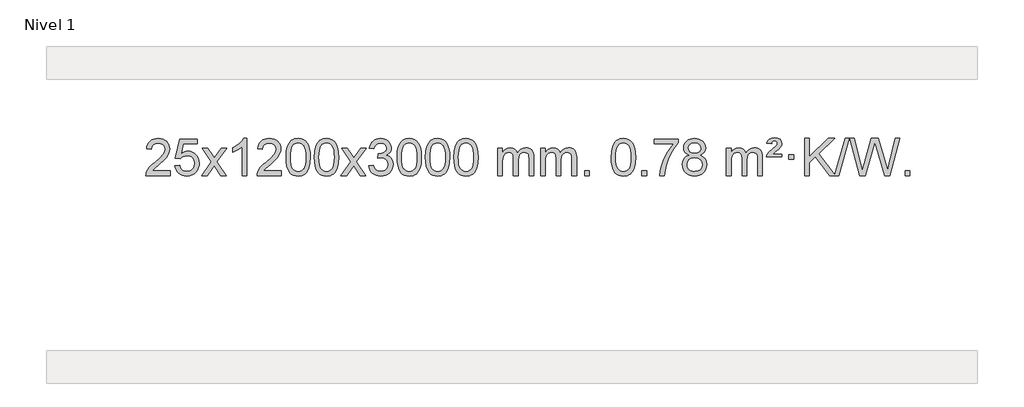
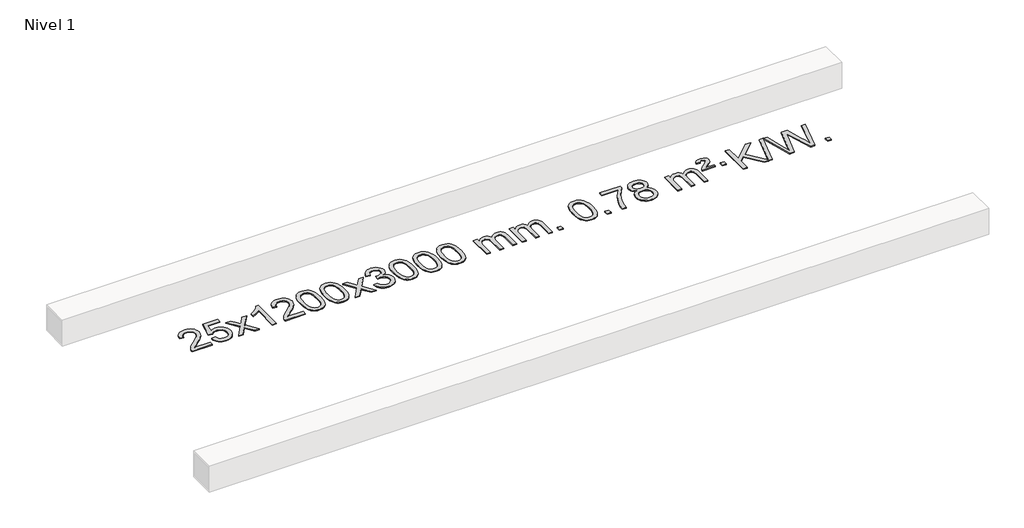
# One storey, part 7 of 7: 1 proxy.
"""IFC4 building model written with IfcOpenShell, lengths in millimetres."""

import ifcopenshell
import ifcopenshell.guid

model = None  # the IFC model being written
_history = None  # IfcOwnerHistory: only IFC2X3 demands one
_inside = {}  # id of a spatial element -> (the spatial element, [elements in it])
_under = {}  # id of a project, library or spatial element -> (it, [spatial elements below it])
_declared = {}  # id of a project -> (the project, [libraries it declares])
_typed = {}  # id of a type object -> (the type object, [elements of that type])
_made_of = {}  # id of a material, layer set ... -> (it, [elements and type objects made of it])


def new_model(schema):
    """Start an empty IFC model of exactly this schema.

    Asked for "IFC4X3", IfcOpenShell would pick the latest addendum, in which some entities
    have other attributes; the version numbers below select the first issue.
    IFC2X3 requires an IfcOwnerHistory on every rooted entity: one is made here for all.
    """
    global model, _history
    if schema == "IFC4X3":
        model = ifcopenshell.file(schema_version=(4, 3, 0, 0))
    else:
        model = ifcopenshell.file(schema=schema)
    _inside.clear()
    _under.clear()
    _declared.clear()
    _typed.clear()
    _made_of.clear()
    _history = None
    if model.schema == "IFC2X3":
        org = make("IfcOrganization", Name="unknown")
        user = make(
            "IfcPersonAndOrganization",
            ThePerson=make("IfcPerson", FamilyName="unknown"),
            TheOrganization=org,
        )
        app = make(
            "IfcApplication",
            ApplicationDeveloper=org,
            Version="unknown",
            ApplicationFullName="unknown",
            ApplicationIdentifier="unknown",
        )
        _history = make(
            "IfcOwnerHistory",
            OwningUser=user,
            OwningApplication=app,
            ChangeAction="ADDED",
            CreationDate=0,
        )
    return model


def make(cls, **values):
    """One entity of the class cls with the attributes given. An attribute that is None is left unset."""
    return model.create_entity(
        cls, **{name: value for name, value in values.items() if value is not None}
    )


def rooted(cls, **values):
    """An entity with a GlobalId (a new one), such as an element, a storey or a relation."""
    return make(cls, GlobalId=ifcopenshell.guid.new(), OwnerHistory=_history, **values)


def si_unit(unit_type, name, prefix=None):
    """IfcSIUnit, for example si_unit("LENGTHUNIT", "METRE", prefix="MILLI")."""
    return make("IfcSIUnit", UnitType=unit_type, Prefix=prefix, Name=name)


def assignment(units):
    """IfcUnitAssignment: the units of a project."""
    return None if units is None else make("IfcUnitAssignment", Units=units)


def point(xyz):
    """IfcCartesianPoint."""
    return None if xyz is None else make("IfcCartesianPoint", Coordinates=xyz)


def direction(xyz):
    """IfcDirection."""
    return None if xyz is None else make("IfcDirection", DirectionRatios=xyz)


def frame(location, z_axis=None, x_axis=None):
    """IfcAxis2Placement3D, a coordinate frame: its origin and axes. An axis left out is left unset."""
    return make(
        "IfcAxis2Placement3D",
        Location=point(location),
        Axis=direction(z_axis),
        RefDirection=direction(x_axis),
    )


def origin():
    """The frame at (0, 0, 0) with its axes left unset."""
    return frame((0.0, 0.0, 0.0))


def origin_with_axes():
    """The frame at (0, 0, 0) with the z axis (0, 0, 1) and the x axis (1, 0, 0) written out."""
    return frame((0.0, 0.0, 0.0), z_axis=(0.0, 0.0, 1.0), x_axis=(1.0, 0.0, 0.0))


def place(relative_to, where):
    """IfcLocalPlacement: puts the frame where relative to a parent placement (None: the world)."""
    return make(
        "IfcLocalPlacement", PlacementRelTo=relative_to, RelativePlacement=where
    )


def context(
    kind, dimensions, precision=None, world=None, true_north=None, identifier=None
):
    """IfcGeometricRepresentationContext, for example the 3D "Model" context."""
    return make(
        "IfcGeometricRepresentationContext",
        ContextIdentifier=identifier,
        ContextType=kind,
        CoordinateSpaceDimension=dimensions,
        Precision=precision,
        WorldCoordinateSystem=world,
        TrueNorth=true_north,
    )


def project(units=None, contexts=None):
    """IfcProject with its units and contexts."""
    return rooted(
        "IfcProject",
        Name="project",
        RepresentationContexts=contexts,
        UnitsInContext=assignment(units),
    )


def spatial(cls, under=None, at=None, **own):
    """A site, building, storey or space (cls), placed at a placement, below another one or the project."""
    s = rooted(cls, ObjectPlacement=at, **own)
    if under is not None:
        _under.setdefault(under.id(), (under, []))[1].append(s)
    return s


def polyline(points):
    """IfcPolyline through the points."""
    return make("IfcPolyline", Points=[point(p) for p in points])


def outline(outer, holes=None, kind="AREA"):
    """IfcArbitraryClosedProfileDef: a profile drawn as a closed curve; with holes, ...WithVoids."""
    if holes is None:
        return make("IfcArbitraryClosedProfileDef", ProfileType=kind, OuterCurve=outer)
    return make(
        "IfcArbitraryProfileDefWithVoids",
        ProfileType=kind,
        OuterCurve=outer,
        InnerCurves=holes,
    )


def extrude(swept, where, along, depth):
    """IfcExtrudedAreaSolid: the profile swept, set in the frame where, extruded along a direction by depth."""
    return make(
        "IfcExtrudedAreaSolid",
        SweptArea=swept,
        Position=where,
        ExtrudedDirection=direction(along),
        Depth=depth,
    )


def shape(context_of_items, identifier, shape_type, items):
    """IfcShapeRepresentation: the items that make up one representation, for example the "Body"."""
    return make(
        "IfcShapeRepresentation",
        ContextOfItems=context_of_items,
        RepresentationIdentifier=identifier,
        RepresentationType=shape_type,
        Items=items,
    )


def made_of(thing, what):
    """Note that an element or type object is made of a material, layer set ...; save() writes the relation."""
    if what is not None:
        _made_of.setdefault(what.id(), (what, []))[1].append(thing)
    return thing


def element(
    cls,
    number,
    at=None,
    inside=None,
    cuts=None,
    type_object=None,
    material=None,
    context=None,
    identifier="Body",
    shape_type=None,
    held_by="IfcProductDefinitionShape",
    body=None,
    shapes=None,
    **own,
):
    """One element of the class cls, such as IfcWall. Its Tag is "e" and its number.

    at: its placement. inside: the storey or other place that contains it. cuts: it is an
    opening in that element (IfcRelVoidsElement). A single representation is given by context,
    identifier, shape_type and body (its items); several are given by shapes. held_by: the class
    of the entity that holds the representations. save() writes the other relations.
    """
    e = rooted(cls, Tag="e%d" % number, ObjectPlacement=at, **own)
    if body is not None:
        shapes = [shape(context, identifier, shape_type, body)]
    if shapes is not None:
        e.Representation = make(held_by, Representations=shapes)
    if inside is not None:
        _inside.setdefault(inside.id(), (inside, []))[1].append(e)
    if cuts is not None:
        rooted(
            "IfcRelVoidsElement", RelatingBuildingElement=cuts, RelatedOpeningElement=e
        )
    if type_object is not None:
        _typed.setdefault(type_object.id(), (type_object, []))[1].append(e)
    return made_of(e, material)


def aggregate(whole, parts):
    """IfcRelAggregates: a whole, such as a stair, and the parts it consists of."""
    return rooted("IfcRelAggregates", RelatingObject=whole, RelatedObjects=parts)


def save(model, path):
    """Write the relations noted so far, then the file.

    IfcRelAggregates (storeys below a building ...), IfcRelContainedInSpatialStructure (elements
    in a storey), IfcRelDefinesByType, IfcRelAssociatesMaterial and IfcRelDeclares: one each for
    every whole, place, type object, material and project.
    """
    for whole, parts in _under.values():
        aggregate(whole, parts)
    for where, things in _inside.values():
        rooted(
            "IfcRelContainedInSpatialStructure",
            RelatedElements=things,
            RelatingStructure=where,
        )
    for kind, things in _typed.values():
        rooted("IfcRelDefinesByType", RelatedObjects=things, RelatingType=kind)
    for what, things in _made_of.values():
        rooted("IfcRelAssociatesMaterial", RelatedObjects=things, RelatingMaterial=what)
    for by, libraries in _declared.values():
        rooted("IfcRelDeclares", RelatingContext=by, RelatedDefinitions=libraries)
    model.write(path)


model = new_model("IFC4")

# Units and contexts
model_context = context("Model", 3, world=origin())
ifc_project = project(units=[si_unit("LENGTHUNIT", "METRE", prefix="MILLI")], contexts=[model_context])

# Site, building, storey
site = spatial("IfcSite", under=ifc_project)
building = spatial("IfcBuilding", under=site)
storey = spatial("IfcBuildingStorey", under=building, Name="Nivel 1", Elevation=0.0)

# Proxy
placement = place(None, origin())
element("IfcBuildingElementProxy", 1, Name="Texto de modelo 1", ObjectType="Texto de modelo 1", at=placement, inside=storey, context=model_context, shape_type="SweptSolid", body=[
    extrude(outline(polyline([(-23553.723944, 2333.9033514), (-23553.723944, 2283.6751963), (-23817.4217581, 2283.6751963), (-23816.3181122, 2301.3580575), (-23812.0261556, 2318.3051548), (-23799.640795, 2345.3690069), (-23781.5164754, 2371.6235186), (-23755.2987519, 2399.1043037), (-23718.6331797, 2429.8469757), (-23664.4318991, 2477.9904662), (-23631.9111307, 2513.5278669), (-23615.6507465, 2542.3698153), (-23610.2306185, 2570.4269488), (-23615.3441782, 2595.5778145), (-23630.6848574, 2616.4857746), (-23654.2660933, 2630.575655), (-23684.1013231, 2635.2722818), (-23715.4326064, 2630.6860196), (-23739.7741317, 2616.927233), (-23755.4826929, 2595.0750425), (-23760.9150837, 2566.2085686), (-23811.1432388, 2572.487088), (-23806.823691, 2598.4166373), (-23798.9663447, 2621.0720368), (-23787.5711999, 2640.4532866), (-23772.6382566, 2656.5603866), (-23754.5108713, 2669.2216586), (-23733.5324005, 2678.2654243), (-23709.7028443, 2683.6916838), (-23683.0222026, 2685.5004369), (-23656.1024376, 2683.4893487), (-23632.1441226, 2677.4560839), (-23611.1472578, 2667.4006427), (-23593.111843, 2653.3230251), (-23578.6264894, 2636.2655632), (-23568.2798083, 2617.2705895), (-23562.0717996, 2596.338104), (-23560.0024634, 2573.4681066), (-23562.2342808, 2549.4454124), (-23568.9297331, 2525.839651), (-23580.8123216, 2501.8292194), (-23598.6055474, 2476.5925146), (-23626.9692492, 2446.4629792), (-23670.5632657, 2407.774056), (-23728.3452644, 2359.4588873), (-23751.0067953, 2333.9033514), (-23553.723944, 2333.9033514)])), origin_with_axes(), (0.0, 0.0, 1.0), 10.0),
    extrude(outline(polyline([(-23503.4957889, 2390.4100258), (-23453.2676339, 2396.6885452), (-23444.0460585, 2366.5344844), (-23427.9573526, 2344.9398112), (-23405.0750925, 2331.9535768), (-23375.4728546, 2327.624832), (-23356.3429909, 2329.1300825), (-23339.46947, 2333.645834), (-23324.8522921, 2341.1720865), (-23312.491457, 2351.7088399), (-23302.6628764, 2364.7349283), (-23295.6424617, 2379.7291852), (-23290.0261299, 2415.6222052), (-23295.2868424, 2449.4182979), (-23301.8627331, 2463.3365), (-23311.06898, 2475.2681394), (-23322.93624, 2484.8392026), (-23337.49517, 2491.6756764), (-23374.6880397, 2497.1448554), (-23399.0540905, 2494.9620889), (-23418.7848282, 2488.4137894), (-23434.5424403, 2478.3828736), (-23446.9891145, 2465.7522585), (-23497.2172695, 2472.0307778), (-23453.2676339, 2679.2219175), (-23258.6335329, 2679.2219175), (-23258.6335329, 2628.9937624), (-23412.6534616, 2628.9937624), (-23434.1377701, 2518.3348583), (-23416.4119893, 2531.0390499), (-23398.2570128, 2540.1134724), (-23379.6728407, 2545.5581259), (-23360.6594729, 2547.3730104), (-23336.1983859, 2545.1227989), (-23313.7299931, 2538.3721643), (-23293.2542944, 2527.1211066), (-23274.7712898, 2511.3696259), (-23259.4704645, 2492.0803466), (-23248.5413035, 2470.2158933), (-23241.983807, 2445.7762661), (-23239.7979748, 2418.7614649), (-23241.7661435, 2392.7399451), (-23247.6706495, 2368.5333099), (-23257.5114929, 2346.1415591), (-23271.2886736, 2325.5646928), (-23292.1598454, 2304.4911859), (-23316.5136335, 2289.4386809), (-23344.3500378, 2280.4071779), (-23375.6690583, 2277.3966769), (-23401.5894106, 2279.3311231), (-23425.0020339, 2285.1344616), (-23445.9069283, 2294.8066923), (-23464.3040937, 2308.3478154), (-23479.6110504, 2325.0833805), (-23491.2453185, 2344.3389373), (-23499.206898, 2366.1144857), (-23503.4957889, 2390.4100258)])), origin_with_axes(), (0.0, 0.0, 1.0), 10.0),
    extrude(outline(polyline([(-23214.6838972, 2283.6751963), (-23107.3604565, 2432.0052168), (-23208.4053779, 2578.7656074), (-23147.9746288, 2578.7656074), (-23099.2180017, 2508.1322643), (-23076.4583689, 2474.7776301), (-23056.739894, 2502.0499486), (-23001.2142382, 2578.7656074), (-22940.7834891, 2578.7656074), (-23046.9297074, 2432.0052168), (-22944.7075637, 2283.6751963), (-23005.1383128, 2283.6751963), (-23066.6481824, 2372.8497919), (-23077.9298969, 2389.1347016), (-23154.2531482, 2283.6751963), (-23214.6838972, 2283.6751963)])), origin_with_axes(), (0.0, 0.0, 1.0), 10.0),
    extrude(outline(polyline([(-22724.9593853, 2283.6751963), (-22775.1875403, 2283.6751963), (-22775.1875403, 2596.8163506), (-22796.1568141, 2579.8569906), (-22822.7669451, 2562.9221561), (-22875.6438505, 2537.5628239), (-22875.6438505, 2585.0441268), (-22836.1946379, 2606.5039098), (-22802.0184005, 2632.0349203), (-22775.0771757, 2659.1846115), (-22757.3330008, 2685.5004369), (-22724.9593853, 2685.5004369), (-22724.9593853, 2283.6751963)])), origin_with_axes(), (0.0, 0.0, 1.0), 10.0),
    extrude(outline(polyline([(-22348.2482222, 2333.9033514), (-22348.2482222, 2283.6751963), (-22611.9460364, 2283.6751963), (-22610.8423904, 2301.3580575), (-22606.5504338, 2318.3051548), (-22594.1650733, 2345.3690069), (-22576.0407536, 2371.6235186), (-22549.8230301, 2399.1043037), (-22513.1574579, 2429.8469757), (-22458.9561773, 2477.9904662), (-22426.4354089, 2513.5278669), (-22410.1750247, 2542.3698153), (-22404.7548967, 2570.4269488), (-22409.8684564, 2595.5778145), (-22425.2091356, 2616.4857746), (-22448.7903715, 2630.575655), (-22478.6256013, 2635.2722818), (-22509.9568846, 2630.6860196), (-22534.2984099, 2616.927233), (-22550.0069711, 2595.0750425), (-22555.4393619, 2566.2085686), (-22605.667517, 2572.487088), (-22601.3479692, 2598.4166373), (-22593.4906229, 2621.0720368), (-22582.0954781, 2640.4532866), (-22567.1625348, 2656.5603866), (-22549.0351495, 2669.2216586), (-22528.0566787, 2678.2654243), (-22504.2271225, 2683.6916838), (-22477.5464808, 2685.5004369), (-22450.6267158, 2683.4893487), (-22426.6684008, 2677.4560839), (-22405.671536, 2667.4006427), (-22387.6361212, 2653.3230251), (-22373.1507676, 2636.2655632), (-22362.8040865, 2617.2705895), (-22356.5960778, 2596.338104), (-22354.5267416, 2573.4681066), (-22356.758559, 2549.4454124), (-22363.4540113, 2525.839651), (-22375.3365998, 2501.8292194), (-22393.1298256, 2476.5925146), (-22421.4935274, 2446.4629792), (-22465.0875439, 2407.774056), (-22522.8695426, 2359.4588873), (-22545.5310735, 2333.9033514), (-22348.2482222, 2333.9033514)])), origin_with_axes(), (0.0, 0.0, 1.0), 10.0),
    extrude(outline(polyline([(-22298.0200671, 2481.350455), (-22294.3289844, 2545.6684905), (-22283.2557364, 2596.9635034), (-22264.9106876, 2636.0203086), (-22253.0526246, 2651.2536888), (-22239.4042026, 2663.6237209), (-22223.9194363, 2673.1947842), (-22206.5523404, 2680.0312579), (-22166.1711601, 2685.5004369), (-22135.2200215, 2682.2630753), (-22107.5062446, 2672.5509907), (-22084.3296789, 2656.7443276), (-22066.9901742, 2635.2232309), (-22053.8935751, 2608.1716415), (-22043.4457265, 2575.7735005), (-22036.6031214, 2534.6320307), (-22034.322253, 2481.350455), (-22037.9765475, 2417.4003016), (-22048.9394309, 2366.227916), (-22067.1741152, 2327.1343227), (-22079.004587, 2311.8549571), (-22092.643812, 2299.4205457), (-22108.1469724, 2289.7851031), (-22125.5692505, 2282.9026441), (-22166.1711601, 2277.3966769), (-22193.8358861, 2279.7879099), (-22218.3613524, 2286.9616088), (-22239.7475591, 2298.9177736), (-22257.9945061, 2315.6564044), (-22275.505689, 2345.9146985), (-22288.0136769, 2383.6164717), (-22295.5184696, 2428.7617238), (-22298.0200671, 2481.350455)]), holes=[polyline([(-22247.7919121, 2481.4485569), (-22246.3203841, 2437.7840298), (-22241.9058001, 2402.4397671), (-22234.5481602, 2375.4157689), (-22224.2474644, 2356.7120351), (-22211.7885275, 2343.9863837), (-22197.9561644, 2334.8966328), (-22182.7503753, 2329.4427822), (-22166.1711601, 2327.624832), (-22149.5919448, 2329.4489136), (-22134.3861557, 2334.9211582), (-22120.5537927, 2344.041566), (-22108.0948558, 2356.8101369), (-22097.7941599, 2375.5445276), (-22090.43652, 2402.5623944), (-22086.021936, 2437.8637375), (-22084.5504081, 2481.4485569), (-22085.9728851, 2523.9573215), (-22090.2403163, 2558.6792504), (-22097.3527015, 2585.6143438), (-22107.3100408, 2604.7626017), (-22119.5605113, 2618.1105868), (-22133.5522898, 2627.6448618), (-22149.2853765, 2633.3654268), (-22166.7597713, 2635.2722818), (-22183.2531474, 2633.5922874), (-22198.2014191, 2628.5523041), (-22211.6045865, 2620.1523318), (-22223.4626494, 2608.3923707), (-22234.1067018, 2587.5457243), (-22241.7095964, 2559.4395399), (-22246.2713331, 2524.0738174), (-22247.7919121, 2481.4485569)])]), origin_with_axes(), (0.0, 0.0, 1.0), 10.0),
    extrude(outline(polyline([(-21990.3726173, 2481.350455), (-21986.6815346, 2545.6684905), (-21975.6082866, 2596.9635034), (-21957.2632377, 2636.0203086), (-21945.4051748, 2651.2536888), (-21931.7567527, 2663.6237209), (-21916.2719864, 2673.1947842), (-21898.9048906, 2680.0312579), (-21858.5237102, 2685.5004369), (-21827.5725717, 2682.2630753), (-21799.8587947, 2672.5509907), (-21776.682229, 2656.7443276), (-21759.3427243, 2635.2232309), (-21746.2461253, 2608.1716415), (-21735.7982766, 2575.7735005), (-21728.9556715, 2534.6320307), (-21726.6748032, 2481.350455), (-21730.3290976, 2417.4003016), (-21741.2919811, 2366.227916), (-21759.5266653, 2327.1343227), (-21771.3571372, 2311.8549571), (-21784.9963621, 2299.4205457), (-21800.4995225, 2289.7851031), (-21817.9218007, 2282.9026441), (-21858.5237102, 2277.3966769), (-21886.1884363, 2279.7879099), (-21910.7139026, 2286.9616088), (-21932.1001093, 2298.9177736), (-21950.3470562, 2315.6564044), (-21967.8582392, 2345.9146985), (-21980.366227, 2383.6164717), (-21987.8710197, 2428.7617238), (-21990.3726173, 2481.350455)]), holes=[polyline([(-21940.1444622, 2481.4485569), (-21938.6729342, 2437.7840298), (-21934.2583503, 2402.4397671), (-21926.9007104, 2375.4157689), (-21916.6000145, 2356.7120351), (-21904.1410776, 2343.9863837), (-21890.3087146, 2334.8966328), (-21875.1029255, 2329.4427822), (-21858.5237102, 2327.624832), (-21841.944495, 2329.4489136), (-21826.7387058, 2334.9211582), (-21812.9063428, 2344.041566), (-21800.4474059, 2356.8101369), (-21790.1467101, 2375.5445276), (-21782.7890702, 2402.5623944), (-21778.3744862, 2437.8637375), (-21776.9029582, 2481.4485569), (-21778.3254353, 2523.9573215), (-21782.5928664, 2558.6792504), (-21789.7052517, 2585.6143438), (-21799.662591, 2604.7626017), (-21811.9130614, 2618.1105868), (-21825.90484, 2627.6448618), (-21841.6379267, 2633.3654268), (-21859.1123214, 2635.2722818), (-21875.6056975, 2633.5922874), (-21890.5539693, 2628.5523041), (-21903.9571366, 2620.1523318), (-21915.8151996, 2608.3923707), (-21926.459252, 2587.5457243), (-21934.0621466, 2559.4395399), (-21938.6238833, 2524.0738174), (-21940.1444622, 2481.4485569)])]), origin_with_axes(), (0.0, 0.0, 1.0), 10.0),
    extrude(outline(polyline([(-21701.5607256, 2283.6751963), (-21594.2372849, 2432.0052168), (-21695.2822062, 2578.7656074), (-21634.8514572, 2578.7656074), (-21586.0948301, 2508.1322643), (-21563.3351973, 2474.7776301), (-21543.6167224, 2502.0499486), (-21488.0910666, 2578.7656074), (-21427.6603175, 2578.7656074), (-21533.8065358, 2432.0052168), (-21431.5843921, 2283.6751963), (-21492.0151412, 2283.6751963), (-21553.5250108, 2372.8497919), (-21564.8067253, 2389.1347016), (-21641.1299765, 2283.6751963), (-21701.5607256, 2283.6751963)])), origin_with_axes(), (0.0, 0.0, 1.0), 10.0),
    extrude(outline(polyline([(-21400.1917952, 2390.4100258), (-21349.9636401, 2396.6885452), (-21338.7187138, 2365.12427), (-21322.2498631, 2343.8116398), (-21299.7477478, 2331.6715339), (-21270.4030273, 2327.624832), (-21235.9692725, 2333.1921129), (-21221.6954511, 2340.1512139), (-21209.383667, 2349.8939554), (-21192.3875188, 2374.8118292), (-21186.7221361, 2405.0272038), (-21192.3384679, 2433.7097367), (-21209.1874633, 2456.9721415), (-21234.6939483, 2472.3863971), (-21266.2827489, 2477.5244823), (-21301.5013186, 2472.0307778), (-21295.9095123, 2522.2589329), (-21287.8651593, 2521.6703217), (-21257.7724121, 2525.2755653), (-21230.8679755, 2536.0912959), (-21219.7947275, 2544.270539), (-21211.8852646, 2554.3872938), (-21207.1395868, 2566.4415605), (-21205.5576943, 2580.4333391), (-21210.1439565, 2602.1261141), (-21223.9027431, 2619.7231362), (-21244.8965423, 2631.3849954), (-21271.1878422, 2635.2722818), (-21297.5281931, 2631.3482072), (-21319.0615525, 2619.5759834), (-21334.7823764, 2599.9556103), (-21343.6851207, 2572.487088), (-21393.9132758, 2578.7656074), (-21387.9597188, 2602.7453821), (-21379.1244196, 2623.86794), (-21367.407378, 2642.133281), (-21352.8085942, 2657.5414053), (-21335.7879205, 2669.7734816), (-21316.8052096, 2678.510679), (-21295.8604613, 2683.7529974), (-21272.9536758, 2685.5004369), (-21241.3771379, 2682.0546089), (-21212.3757739, 2671.7171248), (-21187.923884, 2655.4076897), (-21169.9957681, 2634.0460085), (-21158.9960964, 2609.434703), (-21155.3295392, 2583.376395), (-21158.8121554, 2559.0961834), (-21169.2600041, 2537.0723146), (-21186.5259324, 2518.3103328), (-21210.4627875, 2503.8157822), (-21179.0211397, 2491.1115907), (-21155.7219466, 2469.4801293), (-21141.3009724, 2440.0986207), (-21136.493981, 2404.144287), (-21138.8974767, 2378.6623275), (-21146.1079638, 2355.1914562), (-21158.1254423, 2333.7316731), (-21174.9499123, 2314.2829783), (-21195.4470708, 2298.1452214), (-21218.482615, 2286.6182523), (-21244.0565451, 2279.7020708), (-21272.1688608, 2277.3966769), (-21297.577244, 2279.3648456), (-21320.7292842, 2285.2693516), (-21341.6249815, 2295.110195), (-21360.264336, 2308.8873757), (-21375.8931894, 2325.7915534), (-21387.7573837, 2345.0133876), (-21395.856919, 2366.5528785), (-21400.1917952, 2390.4100258)])), origin_with_axes(), (0.0, 0.0, 1.0), 10.0),
    extrude(outline(polyline([(-21092.5443453, 2481.350455), (-21088.8532627, 2545.6684905), (-21077.7800146, 2596.9635034), (-21059.4349658, 2636.0203086), (-21047.5769028, 2651.2536888), (-21033.9284808, 2663.6237209), (-21018.4437145, 2673.1947842), (-21001.0766186, 2680.0312579), (-20960.6954383, 2685.5004369), (-20929.7442997, 2682.2630753), (-20902.0305228, 2672.5509907), (-20878.8539571, 2656.7443276), (-20861.5144524, 2635.2232309), (-20848.4178533, 2608.1716415), (-20837.9700047, 2575.7735005), (-20831.1273996, 2534.6320307), (-20828.8465312, 2481.350455), (-20832.5008257, 2417.4003016), (-20843.4637091, 2366.227916), (-20861.6983934, 2327.1343227), (-20873.5288652, 2311.8549571), (-20887.1680902, 2299.4205457), (-20902.6712506, 2289.7851031), (-20920.0935287, 2282.9026441), (-20960.6954383, 2277.3966769), (-20988.3601643, 2279.7879099), (-21012.8856306, 2286.9616088), (-21034.2718373, 2298.9177736), (-21052.5187843, 2315.6564044), (-21070.0299672, 2345.9146985), (-21082.5379551, 2383.6164717), (-21090.0427478, 2428.7617238), (-21092.5443453, 2481.350455)]), holes=[polyline([(-21042.3161903, 2481.4485569), (-21040.8446623, 2437.7840298), (-21036.4300783, 2402.4397671), (-21029.0724384, 2375.4157689), (-21018.7717426, 2356.7120351), (-21006.3128057, 2343.9863837), (-20992.4804427, 2334.8966328), (-20977.2746535, 2329.4427822), (-20960.6954383, 2327.624832), (-20944.116223, 2329.4489136), (-20928.9104339, 2334.9211582), (-20915.0780709, 2344.041566), (-20902.619134, 2356.8101369), (-20892.3184381, 2375.5445276), (-20884.9607982, 2402.5623944), (-20880.5462143, 2437.8637375), (-20879.0746863, 2481.4485569), (-20880.4971633, 2523.9573215), (-20884.7645945, 2558.6792504), (-20891.8769797, 2585.6143438), (-20901.834319, 2604.7626017), (-20914.0847895, 2618.1105868), (-20928.076568, 2627.6448618), (-20943.8096547, 2633.3654268), (-20961.2840495, 2635.2722818), (-20977.7774256, 2633.5922874), (-20992.7256973, 2628.5523041), (-21006.1288647, 2620.1523318), (-21017.9869276, 2608.3923707), (-21028.63098, 2587.5457243), (-21036.2338746, 2559.4395399), (-21040.7956114, 2524.0738174), (-21042.3161903, 2481.4485569)])]), origin_with_axes(), (0.0, 0.0, 1.0), 10.0),
    extrude(outline(polyline([(-20784.8968955, 2481.350455), (-20781.2058128, 2545.6684905), (-20770.1325648, 2596.9635034), (-20751.7875159, 2636.0203086), (-20739.929453, 2651.2536888), (-20726.2810309, 2663.6237209), (-20710.7962646, 2673.1947842), (-20693.4291688, 2680.0312579), (-20653.0479884, 2685.5004369), (-20622.0968499, 2682.2630753), (-20594.3830729, 2672.5509907), (-20571.2065072, 2656.7443276), (-20553.8670025, 2635.2232309), (-20540.7704035, 2608.1716415), (-20530.3225548, 2575.7735005), (-20523.4799497, 2534.6320307), (-20521.1990814, 2481.350455), (-20524.8533758, 2417.4003016), (-20535.8162593, 2366.227916), (-20554.0509435, 2327.1343227), (-20565.8814154, 2311.8549571), (-20579.5206403, 2299.4205457), (-20595.0238007, 2289.7851031), (-20612.4460789, 2282.9026441), (-20653.0479884, 2277.3966769), (-20680.7127145, 2279.7879099), (-20705.2381808, 2286.9616088), (-20726.6243875, 2298.9177736), (-20744.8713344, 2315.6564044), (-20762.3825174, 2345.9146985), (-20774.8905052, 2383.6164717), (-20782.3952979, 2428.7617238), (-20784.8968955, 2481.350455)]), holes=[polyline([(-20734.6687404, 2481.4485569), (-20733.1972124, 2437.7840298), (-20728.7826285, 2402.4397671), (-20721.4249886, 2375.4157689), (-20711.1242927, 2356.7120351), (-20698.6653558, 2343.9863837), (-20684.8329928, 2334.8966328), (-20669.6272037, 2329.4427822), (-20653.0479884, 2327.624832), (-20636.4687732, 2329.4489136), (-20621.2629841, 2334.9211582), (-20607.430621, 2344.041566), (-20594.9716841, 2356.8101369), (-20584.6709883, 2375.5445276), (-20577.3133484, 2402.5623944), (-20572.8987644, 2437.8637375), (-20571.4272364, 2481.4485569), (-20572.8497135, 2523.9573215), (-20577.1171446, 2558.6792504), (-20584.2295299, 2585.6143438), (-20594.1868692, 2604.7626017), (-20606.4373396, 2618.1105868), (-20620.4291182, 2627.6448618), (-20636.1622049, 2633.3654268), (-20653.6365996, 2635.2722818), (-20670.1299757, 2633.5922874), (-20685.0782475, 2628.5523041), (-20698.4814148, 2620.1523318), (-20710.3394778, 2608.3923707), (-20720.9835302, 2587.5457243), (-20728.5864248, 2559.4395399), (-20733.1481615, 2524.0738174), (-20734.6687404, 2481.4485569)])]), origin_with_axes(), (0.0, 0.0, 1.0), 10.0),
    extrude(outline(polyline([(-20477.2494457, 2481.350455), (-20473.558363, 2545.6684905), (-20462.4851149, 2596.9635034), (-20444.1400661, 2636.0203086), (-20432.2820031, 2651.2536888), (-20418.6335811, 2663.6237209), (-20403.1488148, 2673.1947842), (-20385.7817189, 2680.0312579), (-20345.4005386, 2685.5004369), (-20314.4494001, 2682.2630753), (-20286.7356231, 2672.5509907), (-20263.5590574, 2656.7443276), (-20246.2195527, 2635.2232309), (-20233.1229537, 2608.1716415), (-20222.675105, 2575.7735005), (-20215.8324999, 2534.6320307), (-20213.5516315, 2481.350455), (-20217.205926, 2417.4003016), (-20228.1688095, 2366.227916), (-20246.4034937, 2327.1343227), (-20258.2339655, 2311.8549571), (-20271.8731905, 2299.4205457), (-20287.3763509, 2289.7851031), (-20304.7986291, 2282.9026441), (-20345.4005386, 2277.3966769), (-20373.0652646, 2279.7879099), (-20397.590731, 2286.9616088), (-20418.9769376, 2298.9177736), (-20437.2238846, 2315.6564044), (-20454.7350676, 2345.9146985), (-20467.2430554, 2383.6164717), (-20474.7478481, 2428.7617238), (-20477.2494457, 2481.350455)]), holes=[polyline([(-20427.0212906, 2481.4485569), (-20425.5497626, 2437.7840298), (-20421.1351787, 2402.4397671), (-20413.7775388, 2375.4157689), (-20403.4768429, 2356.7120351), (-20391.017906, 2343.9863837), (-20377.185543, 2334.8966328), (-20361.9797538, 2329.4427822), (-20345.4005386, 2327.624832), (-20328.8213234, 2329.4489136), (-20313.6155342, 2334.9211582), (-20299.7831712, 2344.041566), (-20287.3242343, 2356.8101369), (-20277.0235384, 2375.5445276), (-20269.6658985, 2402.5623944), (-20265.2513146, 2437.8637375), (-20263.7797866, 2481.4485569), (-20265.2022637, 2523.9573215), (-20269.4696948, 2558.6792504), (-20276.58208, 2585.6143438), (-20286.5394194, 2604.7626017), (-20298.7898898, 2618.1105868), (-20312.7816684, 2627.6448618), (-20328.514755, 2633.3654268), (-20345.9891498, 2635.2722818), (-20362.4825259, 2633.5922874), (-20377.4307976, 2628.5523041), (-20390.833965, 2620.1523318), (-20402.692028, 2608.3923707), (-20413.3360804, 2587.5457243), (-20420.9389749, 2559.4395399), (-20425.5007117, 2524.0738174), (-20427.0212906, 2481.4485569)])]), origin_with_axes(), (0.0, 0.0, 1.0), 10.0),
    extrude(outline(polyline([(-20000.0819725, 2283.6751963), (-20000.0819725, 2578.7656074), (-19949.8538174, 2578.7656074), (-19949.8538174, 2530.205184), (-19934.7461301, 2552.5110956), (-19915.3219608, 2569.9854904), (-19892.2434969, 2581.2794677), (-19866.1729262, 2585.0441268), (-19838.23842, 2581.2058913), (-19815.8466693, 2569.6911848), (-19799.1203012, 2551.2602969), (-19788.1819432, 2526.6735169), (-19769.8736826, 2552.2106587), (-19748.990248, 2570.4514743), (-19725.5316395, 2581.3959636), (-19699.4978569, 2585.0441268), (-19679.3900402, 2583.5266135), (-19661.7409015, 2578.9740738), (-19646.5504408, 2571.3865077), (-19633.8186581, 2560.7639151), (-19623.7540198, 2546.9836687), (-19616.5649925, 2529.9231411), (-19612.2515761, 2509.5823325), (-19610.8137706, 2485.9612427), (-19610.8137706, 2283.6751963), (-19661.0419257, 2283.6751963), (-19661.0419257, 2464.3788323), (-19662.2068854, 2489.4315962), (-19665.7017643, 2506.3173798), (-19672.2500638, 2517.8811372), (-19682.5752852, 2526.9678224), (-19695.8558252, 2532.8539344), (-19711.2700808, 2534.8159717), (-19738.4810857, 2529.7882511), (-19760.66437, 2514.7050893), (-19769.269743, 2503.1352005), (-19775.416438, 2488.5364167), (-19780.333794, 2450.2521637), (-19780.333794, 2283.6751963), (-19830.5619491, 2283.6751963), (-19830.5619491, 2469.9706387), (-19833.4682168, 2498.3711287), (-19842.1870201, 2518.6291639), (-19857.5276993, 2530.7692697), (-19880.2995948, 2534.8159717), (-19899.6501878, 2532.1181704), (-19917.4802018, 2524.0247665), (-19932.1954816, 2510.7319637), (-19942.2018719, 2492.4359658), (-19947.940831, 2467.0521082), (-19949.8538174, 2432.4957261), (-19949.8538174, 2283.6751963), (-20000.0819725, 2283.6751963)])), origin_with_axes(), (0.0, 0.0, 1.0), 10.0),
    extrude(outline(polyline([(-19535.471538, 2283.6751963), (-19535.471538, 2578.7656074), (-19485.2433829, 2578.7656074), (-19485.2433829, 2530.205184), (-19470.1356957, 2552.5110956), (-19450.7115263, 2569.9854904), (-19427.6330625, 2581.2794677), (-19401.5624918, 2585.0441268), (-19373.6279856, 2581.2058913), (-19351.2362348, 2569.6911848), (-19334.5098668, 2551.2602969), (-19323.5715088, 2526.6735169), (-19305.2632482, 2552.2106587), (-19284.3798136, 2570.4514743), (-19260.921205, 2581.3959636), (-19234.8874225, 2585.0441268), (-19214.7796058, 2583.5266135), (-19197.1304671, 2578.9740738), (-19181.9400063, 2571.3865077), (-19169.2082236, 2560.7639151), (-19159.1435854, 2546.9836687), (-19151.954558, 2529.9231411), (-19147.6411417, 2509.5823325), (-19146.2033362, 2485.9612427), (-19146.2033362, 2283.6751963), (-19196.4314913, 2283.6751963), (-19196.4314913, 2464.3788323), (-19197.5964509, 2489.4315962), (-19201.0913299, 2506.3173798), (-19207.6396294, 2517.8811372), (-19217.9648507, 2526.9678224), (-19231.2453907, 2532.8539344), (-19246.6596463, 2534.8159717), (-19273.8706512, 2529.7882511), (-19296.0539356, 2514.7050893), (-19304.6593086, 2503.1352005), (-19310.8060036, 2488.5364167), (-19315.7233596, 2450.2521637), (-19315.7233596, 2283.6751963), (-19365.9515146, 2283.6751963), (-19365.9515146, 2469.9706387), (-19368.8577824, 2498.3711287), (-19377.5765857, 2518.6291639), (-19392.9172649, 2530.7692697), (-19415.6891604, 2534.8159717), (-19435.0397533, 2532.1181704), (-19452.8697674, 2524.0247665), (-19467.5850472, 2510.7319637), (-19477.5914374, 2492.4359658), (-19483.3303966, 2467.0521082), (-19485.2433829, 2432.4957261), (-19485.2433829, 2283.6751963), (-19535.471538, 2283.6751963)])), origin_with_axes(), (0.0, 0.0, 1.0), 10.0),
    extrude(outline(polyline([(-19058.3040648, 2283.6751963), (-19058.3040648, 2333.9033514), (-19008.0759097, 2333.9033514), (-19008.0759097, 2283.6751963), (-19058.3040648, 2283.6751963)])), origin_with_axes(), (0.0, 0.0, 1.0), 10.0),
    extrude(outline(polyline([(-18769.4921731, 2481.350455), (-18765.8010904, 2545.6684905), (-18754.7278424, 2596.9635034), (-18736.3827936, 2636.0203086), (-18724.5247306, 2651.2536888), (-18710.8763086, 2663.6237209), (-18695.3915423, 2673.1947842), (-18678.0244464, 2680.0312579), (-18637.6432661, 2685.5004369), (-18606.6921275, 2682.2630753), (-18578.9783506, 2672.5509907), (-18555.8017849, 2656.7443276), (-18538.4622802, 2635.2232309), (-18525.3656811, 2608.1716415), (-18514.9178325, 2575.7735005), (-18508.0752274, 2534.6320307), (-18505.794359, 2481.350455), (-18509.4486535, 2417.4003016), (-18520.4115369, 2366.227916), (-18538.6462212, 2327.1343227), (-18550.476693, 2311.8549571), (-18564.115918, 2299.4205457), (-18579.6190784, 2289.7851031), (-18597.0413565, 2282.9026441), (-18637.6432661, 2277.3966769), (-18665.3079921, 2279.7879099), (-18689.8334584, 2286.9616088), (-18711.2196651, 2298.9177736), (-18729.4666121, 2315.6564044), (-18746.977795, 2345.9146985), (-18759.4857829, 2383.6164717), (-18766.9905756, 2428.7617238), (-18769.4921731, 2481.350455)]), holes=[polyline([(-18719.2640181, 2481.4485569), (-18717.7924901, 2437.7840298), (-18713.3779061, 2402.4397671), (-18706.0202662, 2375.4157689), (-18695.7195704, 2356.7120351), (-18683.2606335, 2343.9863837), (-18669.4282704, 2334.8966328), (-18654.2224813, 2329.4427822), (-18637.6432661, 2327.624832), (-18621.0640508, 2329.4489136), (-18605.8582617, 2334.9211582), (-18592.0258987, 2344.041566), (-18579.5669618, 2356.8101369), (-18569.2662659, 2375.5445276), (-18561.908626, 2402.5623944), (-18557.494042, 2437.8637375), (-18556.0225141, 2481.4485569), (-18557.4449911, 2523.9573215), (-18561.7124223, 2558.6792504), (-18568.8248075, 2585.6143438), (-18578.7821468, 2604.7626017), (-18591.0326173, 2618.1105868), (-18605.0243958, 2627.6448618), (-18620.7574825, 2633.3654268), (-18638.2318772, 2635.2722818), (-18654.7252534, 2633.5922874), (-18669.6735251, 2628.5523041), (-18683.0766925, 2620.1523318), (-18694.9347554, 2608.3923707), (-18705.5788078, 2587.5457243), (-18713.1817024, 2559.4395399), (-18717.7434391, 2524.0738174), (-18719.2640181, 2481.4485569)])]), origin_with_axes(), (0.0, 0.0, 1.0), 10.0),
    extrude(outline(polyline([(-18436.7306458, 2283.6751963), (-18436.7306458, 2333.9033514), (-18386.5024907, 2333.9033514), (-18386.5024907, 2283.6751963), (-18436.7306458, 2283.6751963)])), origin_with_axes(), (0.0, 0.0, 1.0), 10.0),
    extrude(outline(polyline([(-18304.8817387, 2628.9937624), (-18304.8817387, 2679.2219175), (-18041.1839245, 2679.2219175), (-18041.1839245, 2638.6077453), (-18078.7692017, 2591.0406033), (-18115.9865969, 2530.5485405), (-18148.8139336, 2462.649787), (-18173.2290353, 2392.8625725), (-18185.1974629, 2340.6478546), (-18191.8683898, 2283.6751963), (-18242.0965448, 2283.6751963), (-18236.664154, 2335.4484558), (-18222.1328152, 2396.9828508), (-18198.8949359, 2462.2083286), (-18167.3429234, 2525.0548361), (-18130.505673, 2581.8680789), (-18091.4120796, 2628.9937624), (-18304.8817387, 2628.9937624)])), origin_with_axes(), (0.0, 0.0, 1.0), 10.0),
    extrude(outline(polyline([(-17924.0502973, 2504.9930046), (-17950.9424711, 2518.2367564), (-17969.8148175, 2536.1893978), (-17980.9616419, 2558.4830467), (-17984.6772501, 2584.7498212), (-17982.6538991, 2605.2347169), (-17976.5838462, 2624.0150928), (-17966.4670913, 2641.0909487), (-17952.3036345, 2656.4622848), (-17934.7740574, 2669.1664763), (-17914.5589418, 2678.2408989), (-17891.6582876, 2683.6855524), (-17866.0720948, 2685.5004369), (-17840.3632747, 2683.6426328), (-17817.2909423, 2678.0692206), (-17796.8550974, 2668.7802002), (-17779.0557402, 2655.7755717), (-17764.634766, 2640.1037987), (-17754.3340702, 2622.8133449), (-17748.1536527, 2603.9042104), (-17746.0935135, 2583.376395), (-17749.7600707, 2557.9557492), (-17760.7597424, 2536.042245), (-17779.2151558, 2518.1999682), (-17805.2489383, 2504.9930046), (-17774.334588, 2489.0637142), (-17751.8324726, 2465.6051057), (-17738.1104742, 2435.7453504), (-17733.5364747, 2400.6126198), (-17735.8050803, 2375.559856), (-17742.6108973, 2352.5917567), (-17753.9539254, 2331.7083221), (-17769.8341649, 2312.9095522), (-17789.4177498, 2297.3726693), (-17811.8708142, 2286.2748957), (-17837.1933582, 2279.6162316), (-17865.3853818, 2277.3966769), (-17893.5774053, 2279.6254287), (-17918.8999493, 2286.3116839), (-17941.3530138, 2297.4554427), (-17960.9365987, 2313.056705), (-17976.8168381, 2331.9872993), (-17988.1598663, 2353.1190543), (-17994.9656832, 2376.4519698), (-17997.2342889, 2401.986046), (-17992.4763484, 2438.4799399), (-17978.202527, 2468.4991107), (-17955.1485886, 2491.0134888), (-17924.0502973, 2504.9930046)]), holes=[polyline([(-17947.0061338, 2403.7518795), (-17944.9092064, 2384.5361766), (-17938.6184243, 2365.9336104), (-17927.005616, 2349.7100144), (-17908.94261, 2337.6312223), (-17887.3111487, 2330.1264296), (-17864.9929743, 2327.624832), (-17830.8044742, 2332.8855445), (-17816.9107976, 2339.4614352), (-17805.1508364, 2348.6676821), (-17789.1111814, 2372.5677491), (-17783.7646298, 2402.1822497), (-17789.2828597, 2432.2995224), (-17805.8375495, 2456.7268868), (-17817.9163417, 2466.1691914), (-17832.0797985, 2472.9136946), (-17866.660706, 2478.3092972), (-17900.3709595, 2472.987271), (-17914.1082864, 2466.3347383), (-17925.7670799, 2457.0211924), (-17941.6963703, 2433.0598118), (-17947.0061338, 2403.7518795)]), polyline([(-17934.449095, 2583.2782932), (-17929.9977229, 2561.3525263), (-17916.6436064, 2543.8413433), (-17894.7791532, 2532.363425), (-17864.7967706, 2528.5374523), (-17835.5133638, 2532.3388996), (-17813.9800043, 2543.7432414), (-17800.7362525, 2560.6658132), (-17796.3216686, 2581.0219503), (-17800.8834053, 2602.1506395), (-17814.5686155, 2619.6250343), (-17836.3962806, 2631.3604699), (-17865.3853818, 2635.2722818), (-17894.558424, 2631.4463091), (-17916.3493008, 2619.9683908), (-17929.9241465, 2603.1439209), (-17934.449095, 2583.2782932)])]), origin_with_axes(), (0.0, 0.0, 1.0), 10.0),
    extrude(outline(polyline([(-17520.0668156, 2283.6751963), (-17520.0668156, 2578.7656074), (-17469.8386606, 2578.7656074), (-17469.8386606, 2530.205184), (-17454.7309733, 2552.5110956), (-17435.306804, 2569.9854904), (-17412.2283401, 2581.2794677), (-17386.1577694, 2585.0441268), (-17358.2232632, 2581.2058913), (-17335.8315125, 2569.6911848), (-17319.1051444, 2551.2602969), (-17308.1667864, 2526.6735169), (-17289.8585258, 2552.2106587), (-17268.9750912, 2570.4514743), (-17245.5164826, 2581.3959636), (-17219.4827001, 2585.0441268), (-17199.3748834, 2583.5266135), (-17181.7257447, 2578.9740738), (-17166.535284, 2571.3865077), (-17153.8035012, 2560.7639151), (-17143.738863, 2546.9836687), (-17136.5498357, 2529.9231411), (-17132.2364193, 2509.5823325), (-17130.7986138, 2485.9612427), (-17130.7986138, 2283.6751963), (-17181.0267689, 2283.6751963), (-17181.0267689, 2464.3788323), (-17182.1917285, 2489.4315962), (-17185.6866075, 2506.3173798), (-17192.234907, 2517.8811372), (-17202.5601283, 2526.9678224), (-17215.8406684, 2532.8539344), (-17231.254924, 2534.8159717), (-17258.4659289, 2529.7882511), (-17280.6492132, 2514.7050893), (-17289.2545862, 2503.1352005), (-17295.4012812, 2488.5364167), (-17300.3186372, 2450.2521637), (-17300.3186372, 2283.6751963), (-17350.5467923, 2283.6751963), (-17350.5467923, 2469.9706387), (-17353.45306, 2498.3711287), (-17362.1718633, 2518.6291639), (-17377.5125425, 2530.7692697), (-17400.284438, 2534.8159717), (-17419.635031, 2532.1181704), (-17437.465045, 2524.0247665), (-17452.1803248, 2510.7319637), (-17462.1867151, 2492.4359658), (-17467.9256742, 2467.0521082), (-17469.8386606, 2432.4957261), (-17469.8386606, 2283.6751963), (-17520.0668156, 2283.6751963)])), origin_with_axes(), (0.0, 0.0, 1.0), 10.0),
    extrude(outline(polyline([(-17086.8489781, 2484.5878166), (-17083.0230054, 2500.4067424), (-17074.6843468, 2516.2747191), (-17053.1755128, 2541.4133221), (-17021.2188302, 2569.1516246), (-16977.0729908, 2606.5284353), (-16969.9360801, 2618.0554045), (-16967.5571098, 2629.8766792), (-16969.4455707, 2641.9677341), (-16975.1109535, 2651.7533952), (-16984.4796816, 2658.2281183), (-16997.4781788, 2660.3863594), (-17009.9125902, 2658.7676786), (-17018.7662835, 2653.9116363), (-17025.1919557, 2644.4448062), (-17030.3423037, 2628.9937624), (-17080.5704587, 2635.2722818), (-17069.7302026, 2660.4844612), (-17053.1019364, 2678.0446951), (-17029.3367595, 2688.345391), (-16997.0857713, 2691.7789563), (-16961.3031159, 2687.6464152), (-16936.5569204, 2675.248792), (-16922.1359461, 2656.9160059), (-16917.3289547, 2634.9779762), (-16921.4247076, 2612.0711907), (-16933.7119663, 2590.4397294), (-16954.2397816, 2570.6231525), (-16990.70915, 2542.566019), (-17016.3137369, 2515.9804135), (-16917.3289547, 2515.9804135), (-16917.3289547, 2484.5878166), (-17086.8489781, 2484.5878166)])), origin_with_axes(), (0.0, 0.0, 1.0), 10.0),
    extrude(outline(polyline([(-16841.9867221, 2459.4737391), (-16841.9867221, 2509.7018941), (-16791.7585671, 2509.7018941), (-16791.7585671, 2459.4737391), (-16841.9867221, 2459.4737391)])), origin_with_axes(), (0.0, 0.0, 1.0), 10.0),
    extrude(outline(polyline([(-16401.1169391, 2283.6751963), (-16554.5482566, 2486.3536502), (-16622.2385437, 2421.8026228), (-16622.2385437, 2283.6751963), (-16672.4666988, 2283.6751963), (-16672.4666988, 2685.5004369), (-16622.2385437, 2685.5004369), (-16622.2385437, 2488.8061968), (-16416.2246264, 2685.5004369), (-16345.9836908, 2685.5004369), (-16518.9372794, 2520.2968956), (-16344.2836696, 2289.7197161), (-16232.9703419, 2685.5004369), (-16187.64728, 2685.5004369), (-16300.660629, 2283.6751963), (-16339.7051714, 2283.6751963), (-16345.9836908, 2283.6751963), (-16401.1169391, 2283.6751963)])), origin_with_axes(), (0.0, 0.0, 1.0), 10.0),
    extrude(outline(polyline([(-16073.1624031, 2283.6751963), (-16182.7421868, 2685.5004369), (-16130.9444019, 2685.5004369), (-16067.3743931, 2421.4102153), (-16047.75402, 2339.8875652), (-16026.7602208, 2411.9924362), (-15947.1015061, 2685.5004369), (-15872.4459866, 2685.5004369), (-15814.565886, 2487.236567), (-15789.7706395, 2413.6601679), (-15771.4991671, 2339.8875652), (-15752.4674052, 2419.0557705), (-15688.3087853, 2685.5004369), (-15636.5110003, 2685.5004369), (-15746.1888858, 2283.6751963), (-15799.8506062, 2283.6751963), (-15896.186638, 2593.6770909), (-15909.6265936, 2636.9400135), (-15924.7342808, 2584.847923), (-16012.5354503, 2283.6751963), (-16073.1624031, 2283.6751963)])), origin_with_axes(), (0.0, 0.0, 1.0), 10.0),
    extrude(outline(polyline([(-15580.0043259, 2283.6751963), (-15580.0043259, 2333.9033514), (-15529.7761708, 2333.9033514), (-15529.7761708, 2283.6751963), (-15580.0043259, 2283.6751963)])), origin_with_axes(), (0.0, 0.0, 1.0), 10.0),
])

save(model, "model.ifc")
